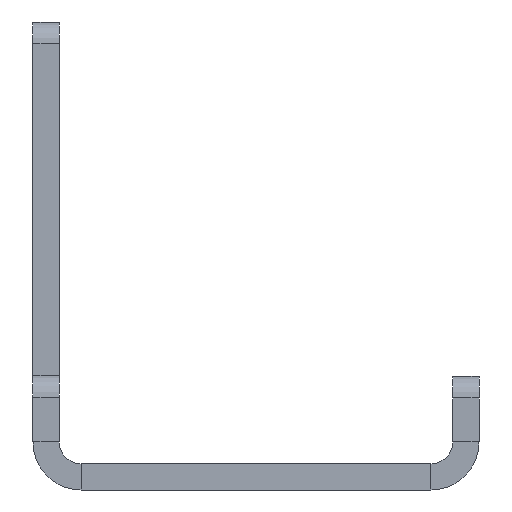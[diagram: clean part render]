
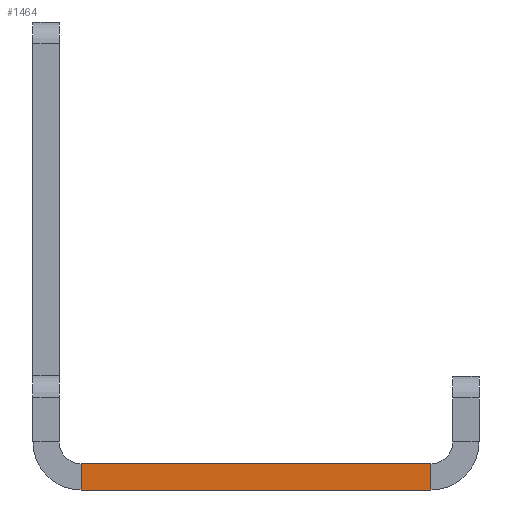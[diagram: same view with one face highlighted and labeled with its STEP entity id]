
A CAD part, left-side view. The second image highlights one B-rep face of the part: STEP entity #1464.
In plain terms, the highlighted planar face has unit normal (-1, 0, 0).
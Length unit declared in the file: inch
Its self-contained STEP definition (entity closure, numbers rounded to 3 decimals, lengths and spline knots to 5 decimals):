
#47 = CARTESIAN_POINT ( 'NONE',  ( -20.9375, 0.132, 0.072 ) ) ;
#98 = DIRECTION ( 'NONE',  ( 0., 1., 0. ) ) ;
#139 = CARTESIAN_POINT ( 'NONE',  ( -20.9375, 0.132, 0. ) ) ;
#191 = DIRECTION ( 'NONE',  ( 0., 0., -1. ) ) ;
#249 = CARTESIAN_POINT ( 'NONE',  ( -20.9375, 1.0924, 0.072 ) ) ;
#256 = CARTESIAN_POINT ( 'NONE',  ( -20.9375, 0., 0.072 ) ) ;
#365 = DIRECTION ( 'NONE',  ( 0., 1., 0. ) ) ;
#368 = VERTEX_POINT ( 'NONE', #47 ) ;
#388 = CARTESIAN_POINT ( 'NONE',  ( -20.9375, 0., 0. ) ) ;
#395 = CARTESIAN_POINT ( 'NONE',  ( -20.9375, 1.0924, 0.072 ) ) ;
#398 = CARTESIAN_POINT ( 'NONE',  ( -20.9375, 0.072, 0.132 ) ) ;
#417 = PLANE ( 'NONE',  #1005 ) ;
#419 = DIRECTION ( 'NONE',  ( -1., 0., 0. ) ) ;
#430 = DIRECTION ( 'NONE',  ( 0., 0., 1. ) ) ;
#527 = DIRECTION ( 'NONE',  ( 0., 0., 1. ) ) ;
#530 = CARTESIAN_POINT ( 'NONE',  ( -20.9375, 1.0924, 0. ) ) ;
#542 = VERTEX_POINT ( 'NONE', #530 ) ;
#551 = CARTESIAN_POINT ( 'NONE',  ( -20.9375, 0.132, 0. ) ) ;
#580 = VERTEX_POINT ( 'NONE', #395 ) ;
#586 = VERTEX_POINT ( 'NONE', #551 ) ;
#617 = EDGE_CURVE ( 'NONE', #586, #368, #1363, .T. ) ;
#645 = EDGE_CURVE ( 'NONE', #586, #542, #1394, .T. ) ;
#680 = EDGE_CURVE ( 'NONE', #368, #580, #1253, .T. ) ;
#682 = EDGE_CURVE ( 'NONE', #580, #542, #1180, .T. ) ;
#717 = ORIENTED_EDGE ( 'NONE', *, *, #617, .T. ) ;
#789 = EDGE_LOOP ( 'NONE', ( #815, #717, #827, #808 ) ) ;
#808 = ORIENTED_EDGE ( 'NONE', *, *, #682, .T. ) ;
#815 = ORIENTED_EDGE ( 'NONE', *, *, #645, .F. ) ;
#827 = ORIENTED_EDGE ( 'NONE', *, *, #680, .T. ) ;
#1005 = AXIS2_PLACEMENT_3D ( 'NONE', #398, #419, #527 ) ;
#1091 = FACE_OUTER_BOUND ( 'NONE', #789, .T. ) ;
#1180 = LINE ( 'NONE', #249, #1196 ) ;
#1196 = VECTOR ( 'NONE', #191, 39.37008 ) ;
#1202 = VECTOR ( 'NONE', #365, 39.37008 ) ;
#1253 = LINE ( 'NONE', #256, #1274 ) ;
#1274 = VECTOR ( 'NONE', #98, 39.37008 ) ;
#1363 = LINE ( 'NONE', #139, #1364 ) ;
#1364 = VECTOR ( 'NONE', #430, 39.37008 ) ;
#1394 = LINE ( 'NONE', #388, #1202 ) ;
#1464 = ADVANCED_FACE ( 'NONE', ( #1091 ), #417, .T. ) ;
